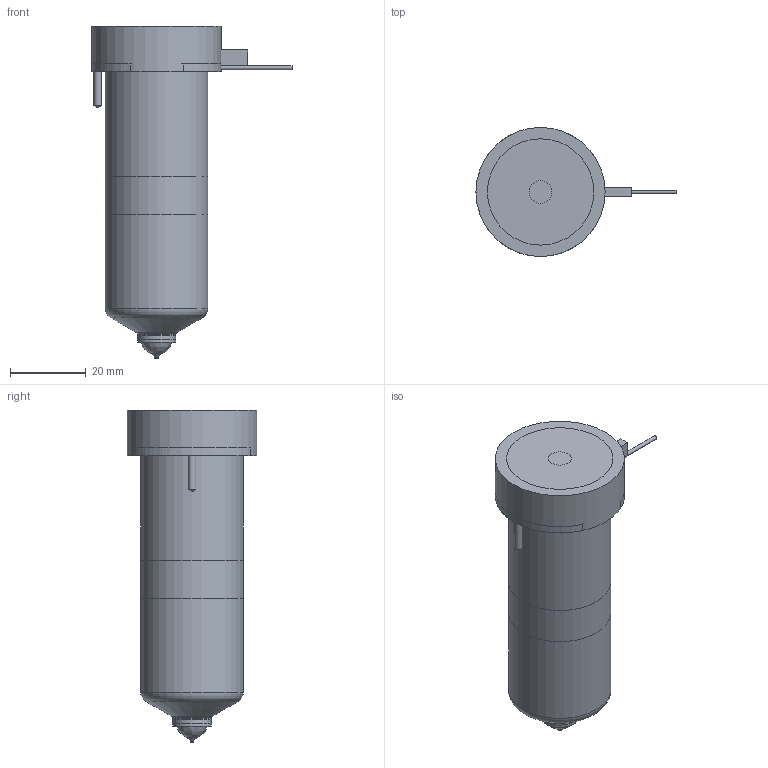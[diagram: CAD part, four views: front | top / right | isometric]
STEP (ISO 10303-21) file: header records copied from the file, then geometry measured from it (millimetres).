
FILE_DESCRIPTION(/* description */ (''),/* implementation_level */ '2;1');
FILE_NAME(/* name */ 'BXOT13075_200C_b',/* time_stamp */ '2007-01-18T08:46:38+13:00',/* author */ (''),/* organization */ (''),/* preprocessor_version */ 'ST-DEVELOPER v9',/* originating_system */ 'UGS - NX 4.0',/* authorisation */ '');
FILE_SCHEMA (('CONFIG_CONTROL_DESIGN'));
Length unit declared in the file: millimetre
Products named in the file (1): BXOT13075_200C_b
Bounding box: 52.65 x 34 x 87.4 mm (x, y, z)
Volume: 90602.3 mm3; surface area: 19656.1 mm2
Topology: 6 solids, 6 shells, 82 faces, 159 edges, 101 vertices
Faces by surface type: plane 35, cylinder 25, cone 11, torus 8, bspline 3
Full cylindrical faces by diameter (mm): 0.9 x1, 1 x3, 2 x2, 6 x1, 6.4 x1, 6.5 x1, 9.61 x1, 10.01 x2, 12.6 x1, 22.2 x1, 27 x2, 34 x1
Entity records: 2032 total; most frequent: CARTESIAN_POINT 438, DIRECTION 336, ORIENTED_EDGE 228, AXIS2_PLACEMENT_3D 150, EDGE_LOOP 130, EDGE_CURVE 114, VERTEX_POINT 93, ADVANCED_FACE 82
